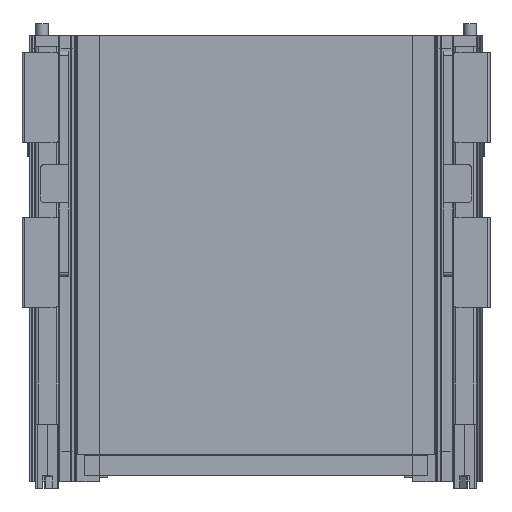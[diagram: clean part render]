
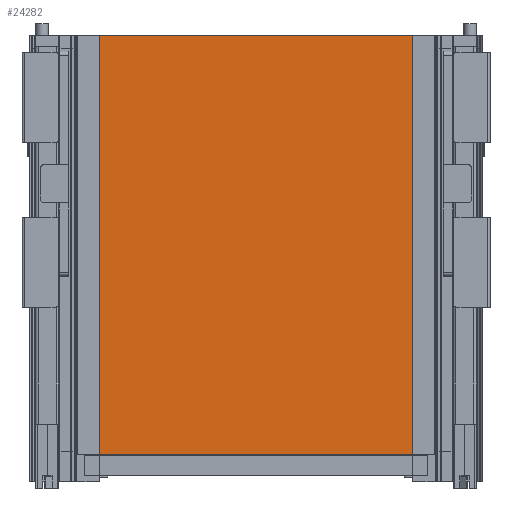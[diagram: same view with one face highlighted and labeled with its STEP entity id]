
A CAD part, front view. The second image highlights one B-rep face of the part: STEP entity #24282.
In plain terms, the highlighted planar face has unit normal (0, -1, 0).
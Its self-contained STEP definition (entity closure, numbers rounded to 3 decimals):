
#1553=PLANE('',#26514);
#2788=FACE_OUTER_BOUND('',#4238,.T.);
#4238=EDGE_LOOP('',(#21763,#21764,#21765,#21766));
#7487=LINE('',#39990,#9801);
#7491=LINE('',#39998,#9805);
#7494=LINE('',#40004,#9808);
#7497=LINE('',#40009,#9811);
#9801=VECTOR('',#33236,326.);
#9805=VECTOR('',#33242,278.);
#9808=VECTOR('',#33247,326.);
#9811=VECTOR('',#33252,278.);
#11953=VERTEX_POINT('',#39988);
#11954=VERTEX_POINT('',#39989);
#11957=VERTEX_POINT('',#39997);
#11959=VERTEX_POINT('',#40003);
#15219=EDGE_CURVE('',#11953,#11954,#7487,.T.);
#15223=EDGE_CURVE('',#11954,#11957,#7491,.T.);
#15226=EDGE_CURVE('',#11957,#11959,#7494,.T.);
#15229=EDGE_CURVE('',#11959,#11953,#7497,.T.);
#21763=ORIENTED_EDGE('',*,*,#15229,.T.);
#21764=ORIENTED_EDGE('',*,*,#15219,.T.);
#21765=ORIENTED_EDGE('',*,*,#15223,.T.);
#21766=ORIENTED_EDGE('',*,*,#15226,.T.);
#24282=ADVANCED_FACE('',(#2788),#1553,.T.);
#26514=AXIS2_PLACEMENT_3D('',#40011,#33254,#33255);
#33236=DIRECTION('',(0.,0.,-1.));
#33242=DIRECTION('',(1.,0.,0.));
#33247=DIRECTION('',(0.,0.,1.));
#33252=DIRECTION('',(-1.,0.,0.));
#33254=DIRECTION('center_axis',(0.,-1.,0.));
#33255=DIRECTION('ref_axis',(0.,0.,-1.));
#39988=CARTESIAN_POINT('',(-139.,0.,163.));
#39989=CARTESIAN_POINT('',(-139.,0.,-163.));
#39990=CARTESIAN_POINT('',(-139.,0.,163.));
#39997=CARTESIAN_POINT('',(139.,0.,-163.));
#39998=CARTESIAN_POINT('',(-139.,0.,-163.));
#40003=CARTESIAN_POINT('',(139.,0.,163.));
#40004=CARTESIAN_POINT('',(139.,0.,-163.));
#40009=CARTESIAN_POINT('',(139.,0.,163.));
#40011=CARTESIAN_POINT('Origin',(0.,0.,0.));
